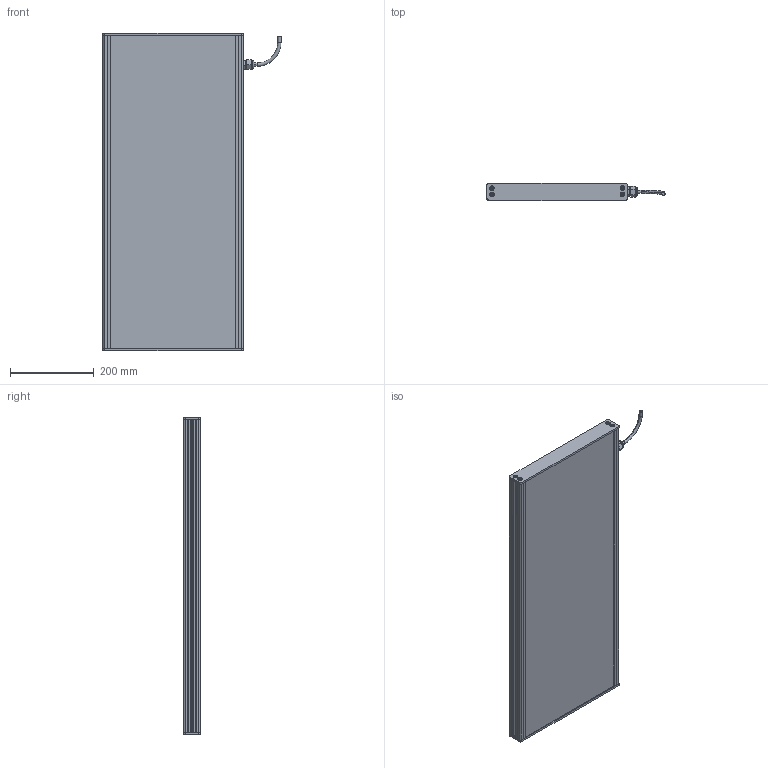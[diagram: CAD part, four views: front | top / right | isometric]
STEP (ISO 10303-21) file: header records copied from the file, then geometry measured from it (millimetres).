
FILE_DESCRIPTION (( 'STEP AP214' ), '1' );
FILE_NAME ('EFFI-BL-300-750T-1M12P.STEP', '2021-07-02T09:56:24', ( '' ), ( '' ), 'SwSTEP 2.0', 'SolidWorks 2021', '' );
FILE_SCHEMA (( 'AUTOMOTIVE_DESIGN' ));
Length unit declared in the file: millimetre
Products named in the file (7): 003776; bord fin modif_lg 436.5 mm; EFFI-BL-300-750T-1M12P; profile modif_lg 99.5 mm; M12 power; Pièce2^EFFI-BL-XXX-YYYT + M12P
Assembly tree (14 placements, depth 2):
  EFFI-BL-300-750T-1M12P
    bord fin modif_lg 436.5 mm  x2
    profile modif_lg 99.5 mm
    Pièce2^EFFI-BL-XXX-YYYT + M12P
    profile modif_lg 99.5 mm
    M12 power
    003776  x8
Bounding box: 426.45 x 40 x 760 mm (x, y, z)
Volume: 8804597.9 mm3; surface area: 808533.6 mm2
Topology: 13 solids, 16 shells, 568 faces, 1441 edges, 923 vertices
Faces by surface type: plane 327, bspline 125, cylinder 94, cone 18, torus 4
Entity records: 15235 total; most frequent: CARTESIAN_POINT 5059, ORIENTED_EDGE 2014, DIRECTION 1715, EDGE_CURVE 1009, VECTOR 755, LINE 755, VERTEX_POINT 666, AXIS2_PLACEMENT_3D 480
